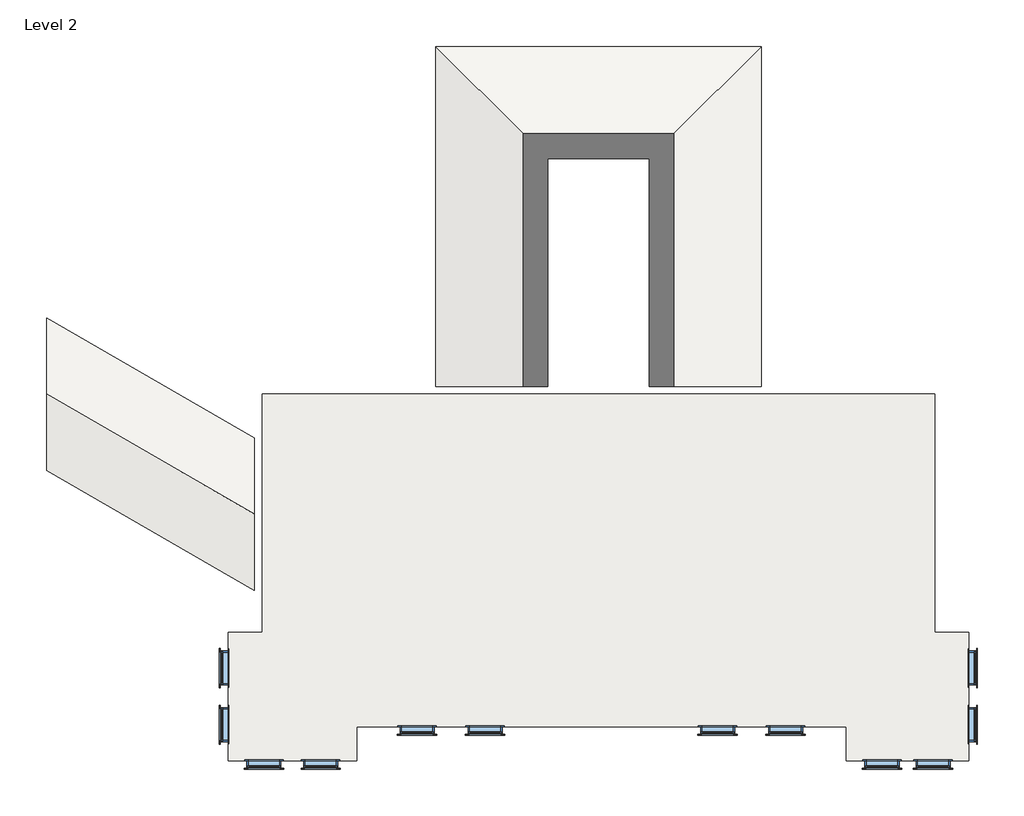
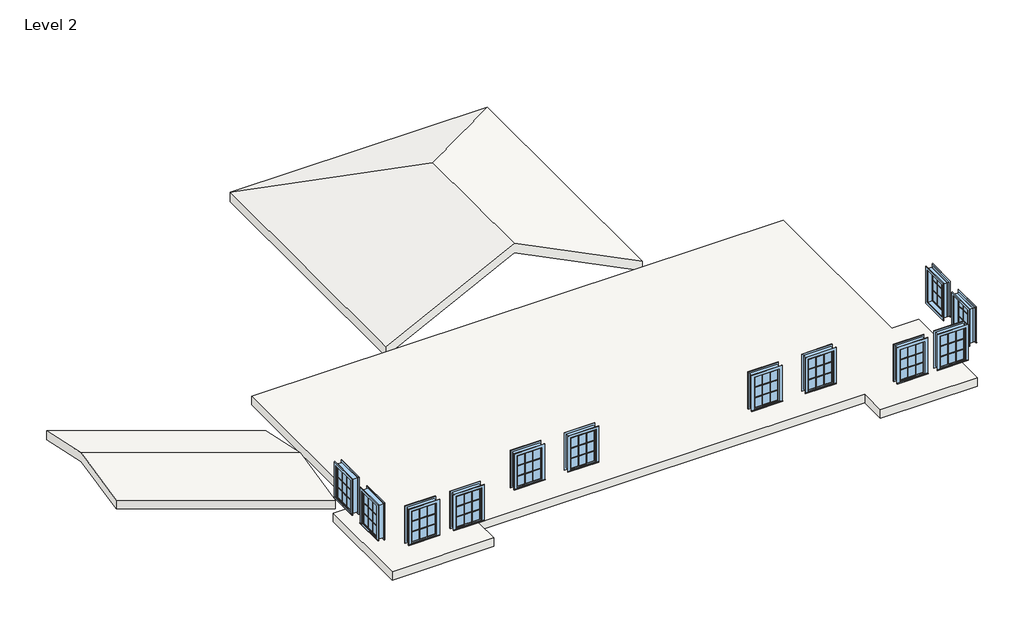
# One storey: 12 windows, 2 roofs, 1 slab.
"""IFC4 building model written with IfcOpenShell, lengths in millimetres."""

from ifc_helpers import new_model, si_unit, frame, origin, place, context, project, spatial, polyline, outline, extrude, faceted_brep, transform, mapped, element, save
from components import casement_3x3_with_trim_29c06734

model = new_model("IFC4")

# Units and contexts
model_context = context("Model", 3, world=origin())
ifc_project = project(units=[si_unit("LENGTHUNIT", "METRE", prefix="MILLI")], contexts=[model_context])

# Site, building, storey
site = spatial("IfcSite", under=ifc_project)
building = spatial("IfcBuilding", under=site)
storey = spatial("IfcBuildingStorey", under=building, Name="Level 2", Elevation=3505.2)

# Roofs
placement = place(None, origin())
element("IfcRoof", 1, ObjectType="Generic - 12\"", at=placement, inside=storey, context=model_context, shape_type="Brep", body=[
    faceted_brep([(-176487.3354666, 12797.5236302, 3505.2), (-176487.3354666, 14850.5811875, 3048.0), (-182075.3354666, 18076.8144917, 3048.0), (-182075.3354666, 16023.7569345, 3505.2), (-176487.3354666, 10744.466073, 3048.0), (-182075.3354666, 13970.6993772, 3048.0), (-176487.3354666, 10744.466073, 2733.284229), (-182075.3354666, 13970.6993772, 2733.284229), (-176487.3354666, 12797.5236302, 3190.484229), (-182075.3354666, 16023.7569345, 3190.484229), (-176487.3354666, 14850.5811875, 2733.284229), (-182075.3354666, 18076.8144917, 2733.284229)], [[[0, 1, 2, 3]], [[4, 0, 3, 5]], [[6, 4, 5, 7]], [[8, 6, 7, 9]], [[10, 8, 9, 11]], [[1, 10, 11, 2]], [[2, 11, 9, 7, 5, 3]], [[1, 0, 4, 6, 8, 10]]]),
])
element("IfcRoof", 2, ObjectType="Generic - 12\"", at=placement, inside=storey, context=model_context, shape_type="Brep", body=[
    faceted_brep([(-167241.7354666, 16229.4757393, 5384.8), (-171610.5354666, 16229.4757393, 3200.4), (-171610.5354666, 25373.4757393, 3200.4), (-167241.7354666, 21004.6757393, 5384.8), (-162872.9354666, 16229.4757393, 3200.4), (-162872.9354666, 25373.4757393, 3200.4), (-171610.5354666, 16229.4757393, 3541.1767598), (-167241.7354666, 16229.4757393, 5725.5767598), (-167241.7354666, 21004.6757393, 5725.5767598), (-171610.5354666, 25373.4757393, 3541.1767598), (-162872.9354666, 16229.4757393, 3541.1767598), (-162872.9354666, 25373.4757393, 3541.1767598)], [[[0, 1, 2, 3]], [[4, 0, 3, 5]], [[5, 3, 2]], [[6, 7, 8, 9]], [[10, 11, 8, 7]], [[11, 9, 8]], [[5, 11, 10, 4]], [[2, 9, 11, 5]], [[1, 6, 9, 2]], [[10, 7, 6, 1, 0, 4]]]),
])

# Slab
element("IfcSlab", 3, ObjectType="Generic - 12\"", at=placement, inside=storey, context=model_context, shape_type="SweptSolid", body=[
    extrude(outline(polyline([(-177198.5354666, 9625.4757393), (-176284.1354666, 9625.4757393), (-176284.1354666, 16026.2757393), (-158199.3354666, 16026.2757393), (-158199.3354666, 9625.4757393), (-157284.9354666, 9625.4757393), (-157284.9354666, 6171.0757393), (-160586.9354666, 6171.0757393), (-160586.9354666, 7085.4757393), (-173744.1354666, 7085.4757393), (-173744.1354666, 6171.0757393), (-177198.5354666, 6171.0757393), (-177198.5354666, 9625.4757393)])), frame((0.0, 0.0, 3200.4), z_axis=(0.0, 0.0, 1.0), x_axis=(1.0, 0.0, 0.0)), (0.0, 0.0, 1.0), 304.8),
])

# Windows
casement_3x3_with_trim_shape = casement_3x3_with_trim_29c06734(model_context)
element("IfcWindow", 4, ObjectType="Casement 3x3 with Trim : 36\"w x 48\"h", at=placement, inside=storey, context=model_context, shape_type="MappedRepresentation", body=[
    mapped(casement_3x3_with_trim_shape, transform((-176233.3354666, 6069.4757393, 3505.2), x_axis=(-1.0, 0.0, 0.0), y_axis=(0.0, -1.0, 0.0), z_axis=(0.0, 0.0, 1.0))),
])
element("IfcWindow", 5, ObjectType="Casement 3x3 with Trim : 36\"w x 48\"h", at=placement, inside=storey, context=model_context, shape_type="MappedRepresentation", body=[
    mapped(casement_3x3_with_trim_shape, transform((-174709.3354666, 6069.4757393, 3505.2), x_axis=(-1.0, 0.0, 0.0), y_axis=(0.0, -1.0, 0.0), z_axis=(0.0, 0.0, 1.0))),
])
element("IfcWindow", 6, ObjectType="Casement 3x3 with Trim : 36\"w x 48\"h", at=placement, inside=storey, context=model_context, shape_type="MappedRepresentation", body=[
    mapped(casement_3x3_with_trim_shape, transform((-172118.5354666, 6983.8757393, 3505.2), x_axis=(-1.0, 0.0, 0.0), y_axis=(0.0, -1.0, 0.0), z_axis=(0.0, 0.0, 1.0))),
])
element("IfcWindow", 7, ObjectType="Casement 3x3 with Trim : 36\"w x 48\"h", at=placement, inside=storey, context=model_context, shape_type="MappedRepresentation", body=[
    mapped(casement_3x3_with_trim_shape, transform((-170289.7354666, 6983.8757393, 3505.2), x_axis=(-1.0, 0.0, 0.0), y_axis=(0.0, -1.0, 0.0), z_axis=(0.0, 0.0, 1.0))),
])
element("IfcWindow", 8, ObjectType="Casement 3x3 with Trim : 36\"w x 48\"h", at=placement, inside=storey, context=model_context, shape_type="MappedRepresentation", body=[
    mapped(casement_3x3_with_trim_shape, transform((-164041.3354666, 6983.8757393, 3505.2), x_axis=(-1.0, 0.0, 0.0), y_axis=(0.0, -1.0, 0.0), z_axis=(0.0, 0.0, 1.0))),
])
element("IfcWindow", 9, ObjectType="Casement 3x3 with Trim : 36\"w x 48\"h", at=placement, inside=storey, context=model_context, shape_type="MappedRepresentation", body=[
    mapped(casement_3x3_with_trim_shape, transform((-162212.5354666, 6983.8757393, 3505.2), x_axis=(-1.0, 0.0, 0.0), y_axis=(0.0, -1.0, 0.0), z_axis=(0.0, 0.0, 1.0))),
])
element("IfcWindow", 10, ObjectType="Casement 3x3 with Trim : 36\"w x 48\"h", at=placement, inside=storey, context=model_context, shape_type="MappedRepresentation", body=[
    mapped(casement_3x3_with_trim_shape, transform((-159621.7354666, 6069.4757393, 3505.2), x_axis=(-1.0, 0.0, 0.0), y_axis=(0.0, -1.0, 0.0), z_axis=(0.0, 0.0, 1.0))),
])
element("IfcWindow", 11, ObjectType="Casement 3x3 with Trim : 36\"w x 48\"h", at=placement, inside=storey, context=model_context, shape_type="MappedRepresentation", body=[
    mapped(casement_3x3_with_trim_shape, transform((-158250.1354666, 6069.4757393, 3505.2), x_axis=(-1.0, 0.0, 0.0), y_axis=(0.0, -1.0, 0.0), z_axis=(0.0, 0.0, 1.0))),
])
element("IfcWindow", 12, ObjectType="Casement 3x3 with Trim : 36\"w x 48\"h", at=placement, inside=storey, context=model_context, shape_type="MappedRepresentation", body=[
    mapped(casement_3x3_with_trim_shape, transform((-157183.3354666, 7136.2757393, 3505.2), x_axis=(0.0, -1.0, 0.0), y_axis=(1.0, 0.0, 0.0), z_axis=(0.0, 0.0, 1.0))),
])
element("IfcWindow", 13, ObjectType="Casement 3x3 with Trim : 36\"w x 48\"h", at=placement, inside=storey, context=model_context, shape_type="MappedRepresentation", body=[
    mapped(casement_3x3_with_trim_shape, transform((-157183.3354666, 8660.2757393, 3505.2), x_axis=(0.0, -1.0, 0.0), y_axis=(1.0, 0.0, 0.0), z_axis=(0.0, 0.0, 1.0))),
])
element("IfcWindow", 14, ObjectType="Casement 3x3 with Trim : 36\"w x 48\"h", at=placement, inside=storey, context=model_context, shape_type="MappedRepresentation", body=[
    mapped(casement_3x3_with_trim_shape, transform((-177300.1354666, 7136.2757393, 3505.2), x_axis=(0.0, 1.0, 0.0), y_axis=(-1.0, 0.0, 0.0), z_axis=(0.0, 0.0, 1.0))),
])
element("IfcWindow", 15, ObjectType="Casement 3x3 with Trim : 36\"w x 48\"h", at=placement, inside=storey, context=model_context, shape_type="MappedRepresentation", body=[
    mapped(casement_3x3_with_trim_shape, transform((-177300.1354666, 8660.2757393, 3505.2), x_axis=(0.0, 1.0, 0.0), y_axis=(-1.0, 0.0, 0.0), z_axis=(0.0, 0.0, 1.0))),
])

save(model, "model.ifc")
